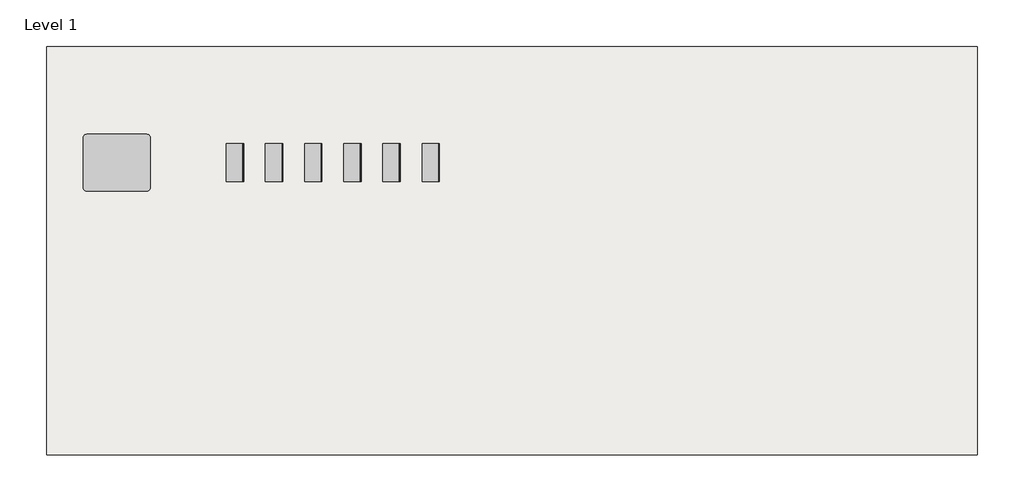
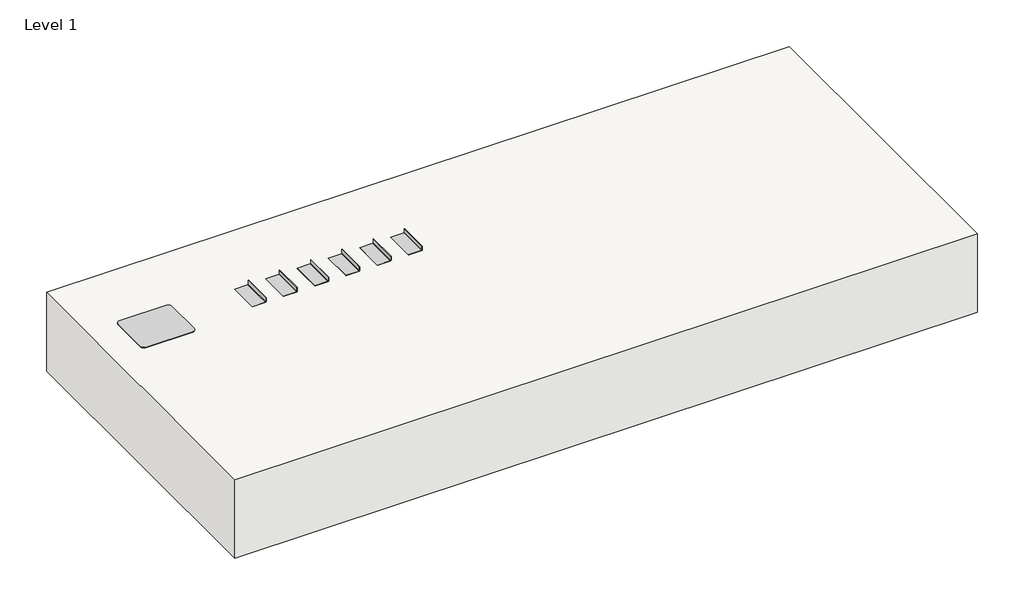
# One storey: 11 proxies, 1 slab.
"""IFC4 building model written with IfcOpenShell, lengths in millimetres."""

from ifc_helpers import new_model, si_unit, origin, place, context, project, spatial, faceted_brep, transform, mapped, element, save
from components import electrical_fixtures_925f7ab6, standard_76d5c3c3

model = new_model("IFC4")

# Units and contexts
model_context = context("Model", 3, world=origin())
ifc_project = project(units=[si_unit("LENGTHUNIT", "METRE", prefix="MILLI")], contexts=[model_context])

# Site, building, storey
site = spatial("IfcSite", under=ifc_project)
building = spatial("IfcBuilding", under=site)
storey = spatial("IfcBuildingStorey", under=building, Name="Level 1", Elevation=0.0)

# Proxies
placement = place(None, origin())
electrical_fixtures_shape = electrical_fixtures_925f7ab6(model_context)
element("IfcBuildingElementProxy", 1, Name="Device_Plate-Resource_Series-Wiremold-RFB4_CI_1 : Duplex, CIHT-D", ObjectType="Device_Plate-Resource_Series-Wiremold-RFB4_CI_1 : Duplex, CIHT-D", at=placement, inside=storey, context=model_context, shape_type="MappedRepresentation", body=[
    mapped(electrical_fixtures_shape, transform((2497.5526186, 1039.4058806, 0.0), x_axis=(0.0, 1.0, 0.0), y_axis=(-1.0, 0.0, 0.0), z_axis=(0.0, 0.0, 1.0))),
])
element("IfcBuildingElementProxy", 2, Name="Device_Plate-Resource_Series-Wiremold-RFB4_CI_1 : Duplex, CIHT-D", ObjectType="Device_Plate-Resource_Series-Wiremold-RFB4_CI_1 : Duplex, CIHT-D", at=placement, inside=storey, context=model_context, shape_type="MappedRepresentation", body=[
    mapped(electrical_fixtures_shape, transform((2038.1139097, 969.3246248, -61.3213463), x_axis=(-1.0, 0.0, 0.0), y_axis=(0.0, 0.0, 1.0), z_axis=(0.0, 1.0, 0.0))),
])
element("IfcBuildingElementProxy", 3, Name="Device_Plate-Resource_Series-Wiremold-RFB4_CI_1 : Blank, CIH/LT-B", ObjectType="Device_Plate-Resource_Series-Wiremold-RFB4_CI_1 : Blank, CIH/LT-B", at=placement, inside=storey, context=model_context, shape_type="MappedRepresentation", body=[
    mapped(electrical_fixtures_shape, transform((2383.2526186, 1039.4058806, 0.0), x_axis=(0.0, 1.0, 0.0), y_axis=(-1.0, 0.0, 0.0), z_axis=(0.0, 0.0, 1.0))),
])
element("IfcBuildingElementProxy", 4, Name="Device_Plate-Resource_Series-Wiremold-RFB4_CI_1 : Blank, CIH/LT-B", ObjectType="Device_Plate-Resource_Series-Wiremold-RFB4_CI_1 : Blank, CIH/LT-B", at=placement, inside=storey, context=model_context, shape_type="MappedRepresentation", body=[
    mapped(electrical_fixtures_shape, transform((1952.9731097, 1039.4413248, -61.3213463), x_axis=(0.0, 1.0, 0.0), y_axis=(0.0, 0.0, 1.0), z_axis=(1.0, 0.0, 0.0))),
])
element("IfcBuildingElementProxy", 5, Name="Device_Plate-Resource_Series-Wiremold-RFB4_CI_1 : GFI, CIHT-GFI", ObjectType="Device_Plate-Resource_Series-Wiremold-RFB4_CI_1 : GFI, CIHT-GFI", at=placement, inside=storey, context=model_context, shape_type="MappedRepresentation", body=[
    mapped(electrical_fixtures_shape, transform((2954.7526186, 1039.4058806, 0.0), x_axis=(0.0, 1.0, 0.0), y_axis=(-1.0, 0.0, 0.0), z_axis=(0.0, 0.0, 1.0))),
])
element("IfcBuildingElementProxy", 6, Name="Device_Plate-Resource_Series-Wiremold-RFB4_CI_1 : For Wiremold CM Series, CILT-2AB", ObjectType="Device_Plate-Resource_Series-Wiremold-RFB4_CI_1 : For Wiremold CM Series, CILT-2AB", at=placement, inside=storey, context=model_context, shape_type="MappedRepresentation", body=[
    mapped(electrical_fixtures_shape, transform((2726.1526186, 1039.4058806, 0.0), x_axis=(0.0, 1.0, 0.0), y_axis=(-1.0, 0.0, 0.0), z_axis=(0.0, 0.0, 1.0))),
])
element("IfcBuildingElementProxy", 7, Name="Device_Plate-Resource_Series-Wiremold-RFB4_CI_1 : Four RJ Knockouts, CILT-4TKO", ObjectType="Device_Plate-Resource_Series-Wiremold-RFB4_CI_1 : Four RJ Knockouts, CILT-4TKO", at=placement, inside=storey, context=model_context, shape_type="MappedRepresentation", body=[
    mapped(electrical_fixtures_shape, transform((2840.4526186, 1039.4058806, 0.0), x_axis=(0.0, 1.0, 0.0), y_axis=(-1.0, 0.0, 0.0), z_axis=(0.0, 0.0, 1.0))),
])
element("IfcBuildingElementProxy", 8, Name="Device_Plate-Resource_Series-Wiremold-RFB4_CI_1 : Four RJ Knockouts, CILT-4TKO", ObjectType="Device_Plate-Resource_Series-Wiremold-RFB4_CI_1 : Four RJ Knockouts, CILT-4TKO", at=placement, inside=storey, context=model_context, shape_type="MappedRepresentation", body=[
    mapped(electrical_fixtures_shape, transform((2038.1139097, 1109.5580248, -61.3213463), x_axis=(1.0, 0.0, 0.0), y_axis=(0.0, 0.0, 1.0), z_axis=(0.0, -1.0, 0.0))),
])
element("IfcBuildingElementProxy", 9, Name="Device_Plate-Resource_Series-Wiremold-RFB4_CI_1 : For Ortronics TracJack Series, CILT-2-RT", ObjectType="Device_Plate-Resource_Series-Wiremold-RFB4_CI_1 : For Ortronics TracJack Series, CILT-2-RT", at=placement, inside=storey, context=model_context, shape_type="MappedRepresentation", body=[
    mapped(electrical_fixtures_shape, transform((2611.8526186, 1039.4058806, 0.0), x_axis=(0.0, 1.0, 0.0), y_axis=(-1.0, 0.0, 0.0), z_axis=(0.0, 0.0, 1.0))),
])
element("IfcBuildingElementProxy", 10, Name="Device_Plate-Resource_Series-Wiremold-RFB4_CI_1 : For Ortronics TracJack Series, CILT-2-RT", ObjectType="Device_Plate-Resource_Series-Wiremold-RFB4_CI_1 : For Ortronics TracJack Series, CILT-2-RT", at=placement, inside=storey, context=model_context, shape_type="MappedRepresentation", body=[
    mapped(electrical_fixtures_shape, transform((2123.2547097, 1039.4413248, -61.3213463), x_axis=(0.0, -1.0, 0.0), y_axis=(0.0, 0.0, 1.0), z_axis=(-1.0, 0.0, 0.0))),
])
standard_shape = standard_76d5c3c3(model_context)
element("IfcBuildingElementProxy", 11, Name="Floor_Box-Resource_Series-Wiremold-RFB4_CI_1 : Standard", ObjectType="Floor_Box-Resource_Series-Wiremold-RFB4_CI_1 : Standard", at=placement, inside=storey, context=model_context, shape_type="MappedRepresentation", body=[
    mapped(standard_shape, transform((2038.1139097, 1039.4413248, 0.0), x_axis=(-1.0, 0.0, 0.0), y_axis=(0.0, -1.0, 0.0), z_axis=(0.0, 0.0, 1.0))),
])

# Slab
element("IfcSlab", 12, ObjectType="Generic - 12\"", at=placement, inside=storey, context=model_context, shape_type="Brep", body=[
    faceted_brep([(4550.9973575, 1378.9766815, -304.8), (4550.9973575, 185.1766815, -304.8), (1833.1973575, 185.1766815, -304.8), (1833.1973575, 1378.9766815, -304.8), (4550.9973575, 185.1766815, 0.0), (4550.9973575, 1378.9766815, 0.0), (1833.1973575, 1378.9766815, 0.0), (1833.1973575, 185.1766815, 0.0), (2126.1286972, 966.5747685, 0.0), (1950.0394097, 966.5747685, 0.0), (1950.0394097, 1112.6568248, 0.0), (2126.1286972, 1112.6568248, 0.0), (2103.439841, 891.8454425, -15.7683463), (1972.9479535, 891.8454425, -15.7683463), (1972.9479535, 960.4907873, -15.7683463), (1959.2565853, 966.5747685, -15.7683463), (2116.971234, 966.5747685, -15.7683463), (2103.439841, 960.5618748, -15.7683463), (1941.6569704, 974.3954425, -15.7683463), (1857.8665972, 974.3954425, -15.7683463), (1857.8665972, 1104.5704425, -15.7683463), (1941.844283, 1104.5704425, -15.7683463), (1950.0394097, 1108.2120798, -15.7683463), (1950.0394097, 970.6705698, -15.7683463), (1973.1063972, 1118.4622693, -15.7683463), (1973.1063972, 1187.1204425, -15.7683463), (2103.2813972, 1187.1204425, -15.7683463), (2103.2813972, 1118.3911818, -15.7683463), (2116.1859724, 1112.6568248, -15.7683463), (1960.041847, 1112.6568248, -15.7683463), (2134.3835364, 1104.5704425, -15.7683463), (2218.5211972, 1104.5704425, -15.7683463), (2218.5211972, 974.3954425, -15.7683463), (2134.570849, 974.3954425, -15.7683463), (2126.1286972, 970.6440356, -15.7683463), (2126.1286972, 1108.238614, -15.7683463), (2103.439841, 891.8454425, -89.8963463), (2103.439841, 960.5618748, -89.8963463), (2134.570849, 974.3954425, -89.8963463), (2218.5211972, 974.3954425, -89.8963463), (2218.5211972, 1104.5704425, -89.8963463), (2134.3835364, 1104.5704425, -89.8963463), (2103.2813972, 1118.3911818, -89.8963463), (2103.2813972, 1187.1204425, -89.8963463), (1973.1063972, 1187.1204425, -89.8963463), (1973.1063972, 1118.4622693, -89.8963463), (1941.844283, 1104.5704425, -89.8963463), (1857.8665972, 1104.5704425, -89.8963463), (1857.8665972, 974.3954425, -89.8963463), (1941.6569704, 974.3954425, -89.8963463), (1972.9479535, 960.4907873, -89.8963463), (1972.9479535, 891.8454425, -89.8963463), (2126.1286972, 966.5747685, -15.7683463), (2126.1286972, 1112.6568248, -15.7683463), (1950.0394097, 1112.6568248, -15.7683463), (1950.0394097, 966.5747685, -15.7683463)], [[[0, 1, 2, 3]], [[4, 5, 6, 7], [8, 9, 10, 11]], [[1, 0, 5, 4]], [[2, 1, 4, 7]], [[3, 2, 7, 6]], [[0, 3, 6, 5]], [[12, 13, 14, 15, 16, 17]], [[18, 19, 20, 21, 22, 23]], [[24, 25, 26, 27, 28, 29]], [[30, 31, 32, 33, 34, 35]], [[36, 37, 38, 39, 40, 41, 42, 43, 44, 45, 46, 47, 48, 49, 50, 51]], [[12, 17, 37, 36]], [[17, 16, 34, 33, 38, 37]], [[33, 32, 39, 38]], [[32, 31, 40, 39]], [[31, 30, 41, 40]], [[28, 27, 42, 41, 30, 35]], [[27, 26, 43, 42]], [[26, 25, 44, 43]], [[25, 24, 45, 44]], [[22, 21, 46, 45, 24, 29]], [[21, 20, 47, 46]], [[20, 19, 48, 47]], [[19, 18, 49, 48]], [[15, 14, 50, 49, 18, 23]], [[14, 13, 51, 50]], [[13, 12, 36, 51]], [[34, 16, 52]], [[28, 35, 53]], [[22, 29, 54]], [[15, 23, 55]], [[16, 15, 55, 9, 8, 52]], [[35, 34, 52, 8, 11, 53]], [[29, 28, 53, 11, 10, 54]], [[23, 22, 54, 10, 9, 55]]]),
])

save(model, "model.ifc")
